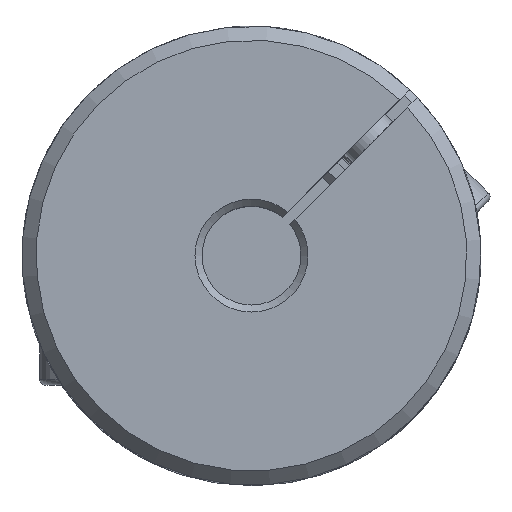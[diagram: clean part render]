
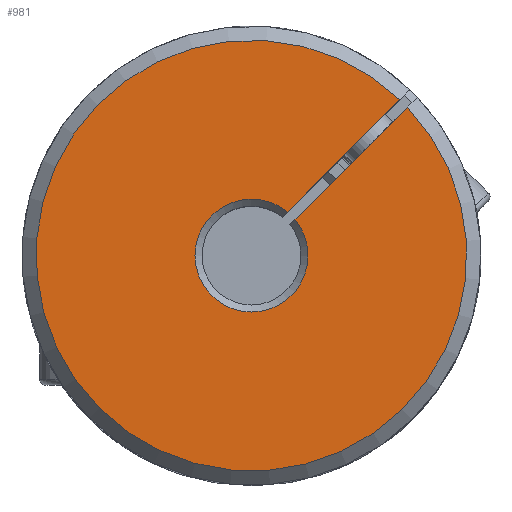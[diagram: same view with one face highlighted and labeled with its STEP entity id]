
A CAD part, top view. The second image highlights one B-rep face of the part: STEP entity #981.
In plain terms, the highlighted planar face has unit normal (0, 0, 1) as drawn and (0, 0, -1) by its records, which use the part's own axes.
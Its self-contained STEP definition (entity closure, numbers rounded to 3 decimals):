
#981 = ADVANCED_FACE( '', ( #1883 ), #1884, .T. );
#1883 = FACE_OUTER_BOUND( '', #2369, .T. );
#1884 = PLANE( '', #2370 );
#2369 = EDGE_LOOP( '', ( #3223, #3224, #3225, #3226 ) );
#2370 = AXIS2_PLACEMENT_3D( '', #3227, #3228, #3229 );
#3223 = ORIENTED_EDGE( '', *, *, #4298, .F. );
#3224 = ORIENTED_EDGE( '', *, *, #4293, .T. );
#3225 = ORIENTED_EDGE( '', *, *, #4305, .T. );
#3226 = ORIENTED_EDGE( '', *, *, #4315, .T. );
#3227 = CARTESIAN_POINT( '', ( 0., 0., 0. ) );
#3228 = DIRECTION( '', ( 0., 0., -1. ) );
#3229 = DIRECTION( '', ( -1., 0., 0. ) );
#4293 = EDGE_CURVE( '', #4882, #4884, #4886, .T. );
#4298 = EDGE_CURVE( '', #4882, #4894, #4895, .T. );
#4305 = EDGE_CURVE( '', #4884, #4907, #4908, .T. );
#4315 = EDGE_CURVE( '', #4907, #4894, #4924, .F. );
#4882 = VERTEX_POINT( '', #5405 );
#4884 = VERTEX_POINT( '', #5410 );
#4886 = CIRCLE( '', #5415, 30.5 );
#4894 = VERTEX_POINT( '', #5423 );
#4895 = LINE( '', #5424, #5425 );
#4907 = VERTEX_POINT( '', #5451 );
#4908 = LINE( '', #5452, #5453 );
#4924 = CIRCLE( '', #5483, 8. );
#5405 = CARTESIAN_POINT( '', ( -30.491, 0.75, 0. ) );
#5410 = CARTESIAN_POINT( '', ( -30.491, -0.75, 0. ) );
#5415 = AXIS2_PLACEMENT_3D( '', #5886, #5887, #5888 );
#5423 = CARTESIAN_POINT( '', ( -7.965, 0.75, 0. ) );
#5424 = CARTESIAN_POINT( '', ( -32.5, 0.75, 0. ) );
#5425 = VECTOR( '', #5901, 1000. );
#5451 = CARTESIAN_POINT( '', ( -7.965, -0.75, 0. ) );
#5452 = CARTESIAN_POINT( '', ( -32.5, -0.75, 0. ) );
#5453 = VECTOR( '', #5905, 1000. );
#5483 = AXIS2_PLACEMENT_3D( '', #5918, #5919, #5920 );
#5886 = CARTESIAN_POINT( '', ( 0., 0., 0. ) );
#5887 = DIRECTION( '', ( 0., 0., -1. ) );
#5888 = DIRECTION( '', ( -1., 0., 0. ) );
#5901 = DIRECTION( '', ( 1., 0., 0. ) );
#5905 = DIRECTION( '', ( 1., 0., 0. ) );
#5918 = CARTESIAN_POINT( '', ( 0., 0., 0. ) );
#5919 = DIRECTION( '', ( 0., 0., -1. ) );
#5920 = DIRECTION( '', ( -1., 0., 0. ) );
